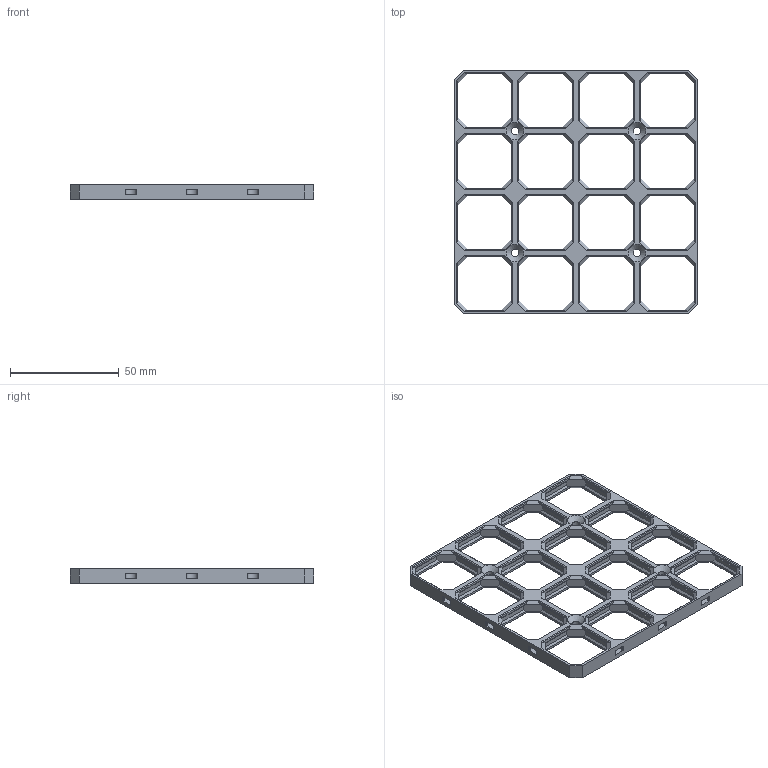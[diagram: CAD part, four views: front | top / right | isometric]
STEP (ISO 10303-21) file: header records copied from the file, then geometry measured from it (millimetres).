
FILE_DESCRIPTION(('FreeCAD Model'),'2;1');
FILE_NAME('Open CASCADE Shape Model','2025-07-11T13:32:59',(''),(''), 'Open CASCADE STEP processor 7.8','FreeCAD','Unknown');
FILE_SCHEMA(('AUTOMOTIVE_DESIGN { 1 0 10303 214 1 1 1 1 }'));
Length unit declared in the file: millimetre
Products named in the file (1): Chamfer
Bounding box: 112 x 112 x 6.8 mm (x, y, z)
Volume: 18233.5 mm3; surface area: 19640 mm2
Topology: 1 solids, 1 shells, 790 faces, 2092 edges, 1316 vertices
Faces by surface type: plane 698, cylinder 88, cone 4
Full cylindrical faces by diameter (mm): 3.6 x4
Entity records: 23934 total; most frequent: CARTESIAN_POINT 4199, ORIENTED_EDGE 4184, DIRECTION 3878, EDGE_CURVE 2092, LINE 1888, VECTOR 1888, VERTEX_POINT 1316, AXIS2_PLACEMENT_3D 995
